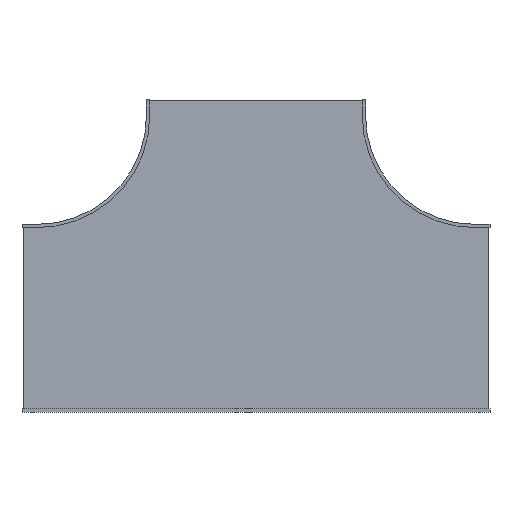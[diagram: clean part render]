
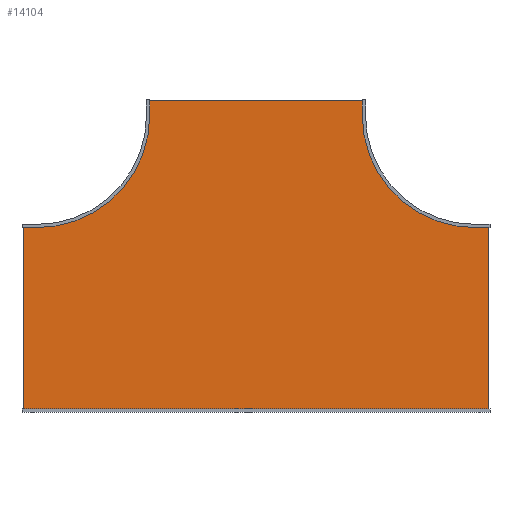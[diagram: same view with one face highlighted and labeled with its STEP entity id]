
A CAD part, front view. The second image highlights one B-rep face of the part: STEP entity #14104.
In plain terms, the highlighted planar face has unit normal (0, -1, 0).
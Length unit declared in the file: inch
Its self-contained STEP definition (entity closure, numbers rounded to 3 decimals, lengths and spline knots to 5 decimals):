
#13913=DIRECTION('',(1.,0.,0.));
#13914=VECTOR('',#13913,41.875);
#13915=CARTESIAN_POINT('',(-20.9375,0.,0.));
#13916=LINE('',#13915,#13914);
#13917=DIRECTION('',(0.,0.,-1.));
#13918=VECTOR('',#13917,2.875);
#13919=CARTESIAN_POINT('',(20.9375,0.,0.));
#13920=LINE('',#13919,#13918);
#13921=CARTESIAN_POINT('',(42.,0.,-2.875));
#13922=DIRECTION('',(0.,-1.,0.));
#13923=DIRECTION('',(-1.,0.,0.));
#13924=AXIS2_PLACEMENT_3D('',#13921,#13922,#13923);
#13926=DIRECTION('',(1.,0.,0.));
#13927=VECTOR('',#13926,2.875);
#13928=CARTESIAN_POINT('',(42.,0.,-23.9375));
#13929=LINE('',#13928,#13927);
#13930=DIRECTION('',(0.,0.,-1.));
#13931=VECTOR('',#13930,35.875);
#13932=CARTESIAN_POINT('',(44.875,0.,-23.9375));
#13933=LINE('',#13932,#13931);
#13934=DIRECTION('',(-1.,0.,0.));
#13935=VECTOR('',#13934,89.75);
#13936=CARTESIAN_POINT('',(44.875,0.,-59.8125));
#13937=LINE('',#13936,#13935);
#13938=DIRECTION('',(0.,0.,1.));
#13939=VECTOR('',#13938,35.875);
#13940=CARTESIAN_POINT('',(-44.875,0.,-59.8125));
#13941=LINE('',#13940,#13939);
#13942=DIRECTION('',(1.,0.,0.));
#13943=VECTOR('',#13942,2.875);
#13944=CARTESIAN_POINT('',(-44.875,0.,-23.9375));
#13945=LINE('',#13944,#13943);
#13946=CARTESIAN_POINT('',(-42.,0.,-2.875));
#13947=DIRECTION('',(0.,-1.,0.));
#13948=DIRECTION('',(0.,0.,-1.));
#13949=AXIS2_PLACEMENT_3D('',#13946,#13947,#13948);
#13951=DIRECTION('',(0.,0.,1.));
#13952=VECTOR('',#13951,2.875);
#13953=CARTESIAN_POINT('',(-20.9375,0.,-2.875));
#13954=LINE('',#13953,#13952);
#14037=CARTESIAN_POINT('',(-20.9375,0.,0.));
#14038=CARTESIAN_POINT('',(20.9375,0.,0.));
#14039=VERTEX_POINT('',#14037);
#14040=VERTEX_POINT('',#14038);
#14041=CARTESIAN_POINT('',(20.9375,0.,-2.875));
#14042=VERTEX_POINT('',#14041);
#14043=CARTESIAN_POINT('',(42.,0.,-23.9375));
#14044=VERTEX_POINT('',#14043);
#14045=CARTESIAN_POINT('',(44.875,0.,-23.9375));
#14046=VERTEX_POINT('',#14045);
#14047=CARTESIAN_POINT('',(44.875,0.,-59.8125));
#14048=VERTEX_POINT('',#14047);
#14049=CARTESIAN_POINT('',(-44.875,0.,-59.8125));
#14050=VERTEX_POINT('',#14049);
#14051=CARTESIAN_POINT('',(-44.875,0.,-23.9375));
#14052=VERTEX_POINT('',#14051);
#14053=CARTESIAN_POINT('',(-42.,0.,-23.9375));
#14054=VERTEX_POINT('',#14053);
#14055=CARTESIAN_POINT('',(-20.9375,0.,-2.875));
#14056=VERTEX_POINT('',#14055);
#14077=CARTESIAN_POINT('',(0.,0.,0.));
#14078=DIRECTION('',(0.,1.,0.));
#14079=DIRECTION('',(1.,0.,0.));
#14080=AXIS2_PLACEMENT_3D('',#14077,#14078,#14079);
#14081=PLANE('',#14080);
#14083=ORIENTED_EDGE('',*,*,#14082,.T.);
#14085=ORIENTED_EDGE('',*,*,#14084,.T.);
#14087=ORIENTED_EDGE('',*,*,#14086,.T.);
#14089=ORIENTED_EDGE('',*,*,#14088,.T.);
#14091=ORIENTED_EDGE('',*,*,#14090,.T.);
#14093=ORIENTED_EDGE('',*,*,#14092,.T.);
#14095=ORIENTED_EDGE('',*,*,#14094,.T.);
#14097=ORIENTED_EDGE('',*,*,#14096,.T.);
#14099=ORIENTED_EDGE('',*,*,#14098,.T.);
#14101=ORIENTED_EDGE('',*,*,#14100,.T.);
#14102=EDGE_LOOP('',(#14083,#14085,#14087,#14089,#14091,#14093,#14095,#14097,
#14099,#14101));
#14103=FACE_OUTER_BOUND('',#14102,.F.);
#14104=ADVANCED_FACE('',(#14103),#14081,.F.);
#13925=CIRCLE('',#13924,21.0625);
#13950=CIRCLE('',#13949,21.0625);
#14082=EDGE_CURVE('',#14039,#14040,#13916,.T.);
#14084=EDGE_CURVE('',#14040,#14042,#13920,.T.);
#14086=EDGE_CURVE('',#14042,#14044,#13925,.T.);
#14088=EDGE_CURVE('',#14044,#14046,#13929,.T.);
#14090=EDGE_CURVE('',#14046,#14048,#13933,.T.);
#14092=EDGE_CURVE('',#14048,#14050,#13937,.T.);
#14094=EDGE_CURVE('',#14050,#14052,#13941,.T.);
#14096=EDGE_CURVE('',#14052,#14054,#13945,.T.);
#14098=EDGE_CURVE('',#14054,#14056,#13950,.T.);
#14100=EDGE_CURVE('',#14056,#14039,#13954,.T.);
